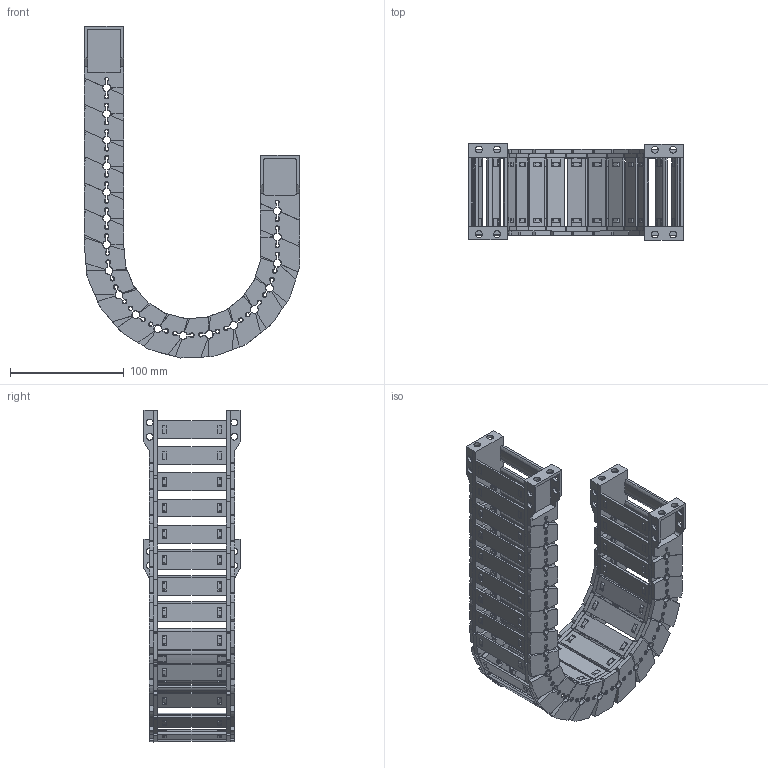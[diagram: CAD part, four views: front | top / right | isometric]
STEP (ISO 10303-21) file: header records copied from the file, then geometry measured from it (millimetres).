
FILE_DESCRIPTION(/* description */ (''),/* implementation_level */ '2;1');
FILE_NAME(/* name */ 'JY28-60-R75.stp',/* time_stamp */ '2026-06-03T15:37:25+08:00',/* author */ (''),/* organization */ (''),/* preprocessor_version */ 'ST-DEVELOPER v19.4',/* originating_system */ 'SIEMENS PLM Software NX2306.5001',/* authorisation */ '');
FILE_SCHEMA (('AP203_CONFIGURATION_CONTROLLED_3D_DESIGN_OF_MECHANICAL_PARTS_AND_ASSEMBLIES_MIM_LF { 1 0 10303 403 2 1 2}'));
Products named in the file (1): 简化图纸_objects
Bounding box: 189.55 x 84.5 x 292.17 mm (x, y, z)
Volume: 346536.3 mm3; surface area: 253213.3 mm2
Topology: 74 solids, 74 shells, 6194 faces, 17618 edges, 11518 vertices
Faces by surface type: plane 4058, cone 1120, cylinder 978, bspline 36, torus 2
Full cylindrical faces by diameter (mm): 6 x24
Entity records: 209461 total; most frequent: CARTESIAN_POINT 46487, ORIENTED_EDGE 35144, DIRECTION 33002, EDGE_CURVE 17572, LINE 11632, VECTOR 11632, VERTEX_POINT 11496, AXIS2_PLACEMENT_3D 10685
